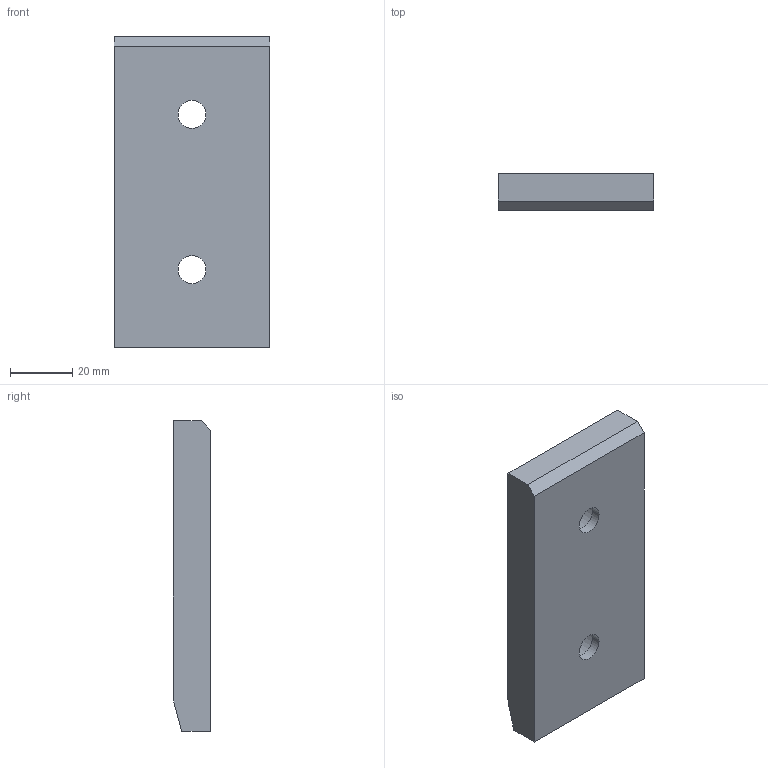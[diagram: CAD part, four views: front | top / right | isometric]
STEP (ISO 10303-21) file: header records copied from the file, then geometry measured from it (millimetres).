
FILE_DESCRIPTION (( 'STEP AP214' ), '1' );
FILE_NAME ('SW222-01-50x100.STEP', '2020-10-14T12:37:54', ( 'August' ), ( '' ), 'SwSTEP 2.0', 'SolidWorks 2018', '' );
FILE_SCHEMA (( 'AUTOMOTIVE_DESIGN' ));
Length unit declared in the file: millimetre
Products named in the file (1): SW222-01-50x100
Bounding box: 50 x 12 x 100 mm (x, y, z)
Volume: 48415.8 mm3; surface area: 18838.6 mm2
Topology: 1 solids, 1 shells, 134 faces, 275 edges, 182 vertices
Faces by surface type: cylinder 83, plane 47, cone 4
Entity records: 3912 total; most frequent: DIRECTION 715, CARTESIAN_POINT 592, ORIENTED_EDGE 550, AXIS2_PLACEMENT_3D 305, EDGE_CURVE 275, VERTEX_POINT 182, EDGE_LOOP 177, CIRCLE 170
